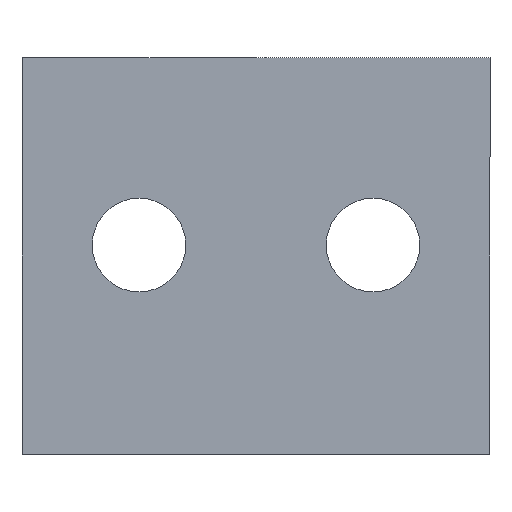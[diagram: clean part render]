
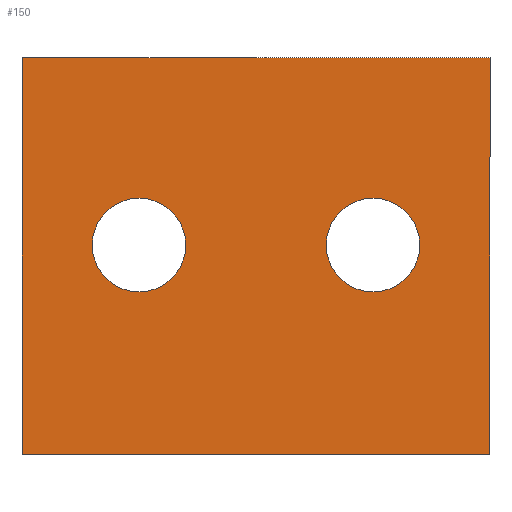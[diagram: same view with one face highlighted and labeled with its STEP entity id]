
A CAD part, front view. The second image highlights one B-rep face of the part: STEP entity #150.
In plain terms, the highlighted planar face has unit normal (0, -1, 0).
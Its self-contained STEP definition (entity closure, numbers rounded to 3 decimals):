
#2 = ORIENTED_EDGE ( 'NONE', *, *, #76, .F. ) ;
#6 = EDGE_LOOP ( 'NONE', ( #94, #111, #364, #2 ) ) ;
#10 = FACE_BOUND ( 'NONE', #320, .T. ) ;
#14 = DIRECTION ( 'NONE',  ( 0., 0., 1. ) ) ;
#18 = CARTESIAN_POINT ( 'NONE',  ( -15., 0., -12.7 ) ) ;
#22 = CARTESIAN_POINT ( 'NONE',  ( 7.5, 0., 0.7 ) ) ;
#23 = VERTEX_POINT ( 'NONE', #202 ) ;
#25 = DIRECTION ( 'NONE',  ( 0., 0., -1. ) ) ;
#29 = ORIENTED_EDGE ( 'NONE', *, *, #174, .T. ) ;
#31 = CARTESIAN_POINT ( 'NONE',  ( -15., 0., 12.7 ) ) ;
#32 = CIRCLE ( 'NONE', #122, 3. ) ;
#33 = EDGE_LOOP ( 'NONE', ( #29, #176 ) ) ;
#45 = CARTESIAN_POINT ( 'NONE',  ( -15., 0., -12.7 ) ) ;
#46 = DIRECTION ( 'NONE',  ( 0., 1., 0. ) ) ;
#47 = DIRECTION ( 'NONE',  ( 0., 0., -1. ) ) ;
#52 = AXIS2_PLACEMENT_3D ( 'NONE', #159, #46, #14 ) ;
#59 = ORIENTED_EDGE ( 'NONE', *, *, #153, .T. ) ;
#63 = LINE ( 'NONE', #18, #197 ) ;
#76 = EDGE_CURVE ( 'NONE', #294, #173, #339, .T. ) ;
#80 = VECTOR ( 'NONE', #252, 1000. ) ;
#94 = ORIENTED_EDGE ( 'NONE', *, *, #198, .F. ) ;
#95 = AXIS2_PLACEMENT_3D ( 'NONE', #366, #244, #276 ) ;
#102 = CARTESIAN_POINT ( 'NONE',  ( -7.5, 0., 0.7 ) ) ;
#111 = ORIENTED_EDGE ( 'NONE', *, *, #317, .F. ) ;
#122 = AXIS2_PLACEMENT_3D ( 'NONE', #22, #210, #162 ) ;
#126 = DIRECTION ( 'NONE',  ( 0., 1., 0. ) ) ;
#136 = CARTESIAN_POINT ( 'NONE',  ( 15., 0., -12.7 ) ) ;
#144 = ORIENTED_EDGE ( 'NONE', *, *, #330, .T. ) ;
#145 = EDGE_CURVE ( 'NONE', #286, #315, #352, .T. ) ;
#150 = ADVANCED_FACE ( 'NONE', ( #163, #189, #10 ), #241, .F. ) ;
#153 = EDGE_CURVE ( 'NONE', #186, #23, #32, .T. ) ;
#156 = CARTESIAN_POINT ( 'NONE',  ( 15., 0., -12.7 ) ) ;
#159 = CARTESIAN_POINT ( 'NONE',  ( 15., 0., 12.7 ) ) ;
#162 = DIRECTION ( 'NONE',  ( 0., 0., -1. ) ) ;
#163 = FACE_BOUND ( 'NONE', #33, .T. ) ;
#167 = CIRCLE ( 'NONE', #385, 3. ) ;
#172 = VECTOR ( 'NONE', #359, 1000. ) ;
#173 = VERTEX_POINT ( 'NONE', #206 ) ;
#174 = EDGE_CURVE ( 'NONE', #315, #286, #228, .T. ) ;
#176 = ORIENTED_EDGE ( 'NONE', *, *, #145, .T. ) ;
#186 = VERTEX_POINT ( 'NONE', #338 ) ;
#188 = DIRECTION ( 'NONE',  ( 0., 1., 0. ) ) ;
#189 = FACE_OUTER_BOUND ( 'NONE', #6, .T. ) ;
#197 = VECTOR ( 'NONE', #343, 1000. ) ;
#198 = EDGE_CURVE ( 'NONE', #224, #294, #256, .T. ) ;
#199 = VERTEX_POINT ( 'NONE', #209 ) ;
#202 = CARTESIAN_POINT ( 'NONE',  ( 7.5, 0., -2.3 ) ) ;
#206 = CARTESIAN_POINT ( 'NONE',  ( -15., 0., -12.7 ) ) ;
#209 = CARTESIAN_POINT ( 'NONE',  ( -15., 0., 12.7 ) ) ;
#210 = DIRECTION ( 'NONE',  ( 0., 1., 0. ) ) ;
#213 = CARTESIAN_POINT ( 'NONE',  ( 15., 0., 12.7 ) ) ;
#214 = EDGE_CURVE ( 'NONE', #173, #199, #63, .T. ) ;
#224 = VERTEX_POINT ( 'NONE', #213 ) ;
#228 = CIRCLE ( 'NONE', #348, 3. ) ;
#240 = DIRECTION ( 'NONE',  ( 0., 0., 1. ) ) ;
#241 = PLANE ( 'NONE',  #52 ) ;
#243 = LINE ( 'NONE', #31, #80 ) ;
#244 = DIRECTION ( 'NONE',  ( 0., 1., 0. ) ) ;
#252 = DIRECTION ( 'NONE',  ( 1., 0., 0. ) ) ;
#256 = LINE ( 'NONE', #156, #263 ) ;
#263 = VECTOR ( 'NONE', #47, 1000. ) ;
#276 = DIRECTION ( 'NONE',  ( 0., 0., 1. ) ) ;
#286 = VERTEX_POINT ( 'NONE', #350 ) ;
#294 = VERTEX_POINT ( 'NONE', #136 ) ;
#315 = VERTEX_POINT ( 'NONE', #373 ) ;
#316 = CARTESIAN_POINT ( 'NONE',  ( 7.5, 0., 0.7 ) ) ;
#317 = EDGE_CURVE ( 'NONE', #199, #224, #243, .T. ) ;
#320 = EDGE_LOOP ( 'NONE', ( #144, #59 ) ) ;
#330 = EDGE_CURVE ( 'NONE', #23, #186, #167, .T. ) ;
#338 = CARTESIAN_POINT ( 'NONE',  ( 7.5, 0., 3.7 ) ) ;
#339 = LINE ( 'NONE', #45, #172 ) ;
#343 = DIRECTION ( 'NONE',  ( 0., 0., 1. ) ) ;
#348 = AXIS2_PLACEMENT_3D ( 'NONE', #102, #126, #240 ) ;
#350 = CARTESIAN_POINT ( 'NONE',  ( -7.5, 0., 3.7 ) ) ;
#352 = CIRCLE ( 'NONE', #95, 3. ) ;
#359 = DIRECTION ( 'NONE',  ( -1., 0., 0. ) ) ;
#364 = ORIENTED_EDGE ( 'NONE', *, *, #214, .F. ) ;
#366 = CARTESIAN_POINT ( 'NONE',  ( -7.5, 0., 0.7 ) ) ;
#373 = CARTESIAN_POINT ( 'NONE',  ( -7.5, 0., -2.3 ) ) ;
#385 = AXIS2_PLACEMENT_3D ( 'NONE', #316, #188, #25 ) ;
